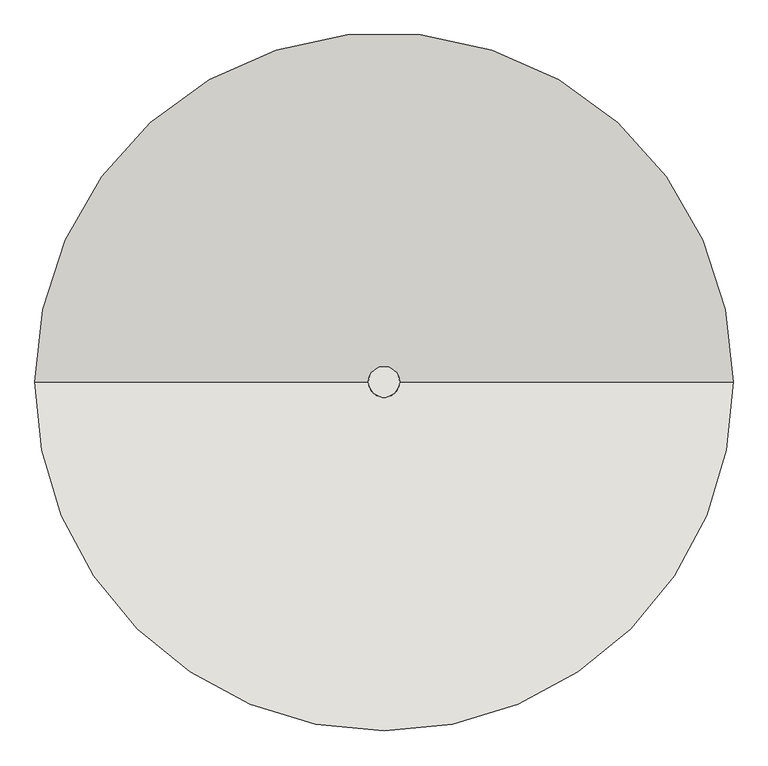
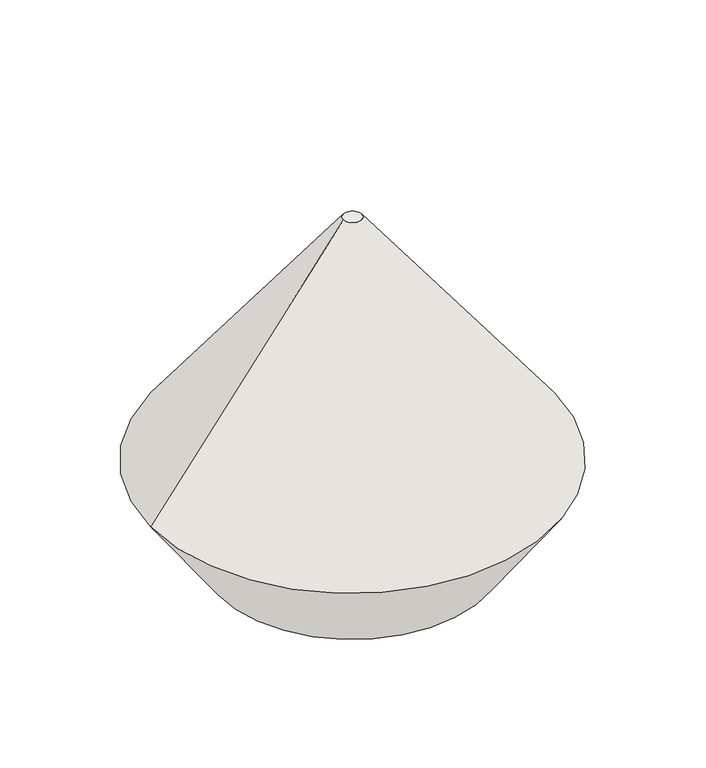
"""IFC4 building model written with IfcOpenShell, lengths in millimetres: wall geometry, Стены 1 : Стены 1."""

import ifcopenshell
import ifcopenshell.guid

model = None  # the IFC model being written
_history = None  # IfcOwnerHistory: only IFC2X3 demands one
_inside = {}  # id of a spatial element -> (the spatial element, [elements in it])
_under = {}  # id of a project, library or spatial element -> (it, [spatial elements below it])
_declared = {}  # id of a project -> (the project, [libraries it declares])
_typed = {}  # id of a type object -> (the type object, [elements of that type])
_made_of = {}  # id of a material, layer set ... -> (it, [elements and type objects made of it])


def new_model(schema):
    """Start an empty IFC model of exactly this schema.

    Asked for "IFC4X3", IfcOpenShell would pick the latest addendum, in which some entities
    have other attributes; the version numbers below select the first issue.
    IFC2X3 requires an IfcOwnerHistory on every rooted entity: one is made here for all.
    """
    global model, _history
    if schema == "IFC4X3":
        model = ifcopenshell.file(schema_version=(4, 3, 0, 0))
    else:
        model = ifcopenshell.file(schema=schema)
    _inside.clear()
    _under.clear()
    _declared.clear()
    _typed.clear()
    _made_of.clear()
    _history = None
    if model.schema == "IFC2X3":
        org = make("IfcOrganization", Name="unknown")
        user = make(
            "IfcPersonAndOrganization",
            ThePerson=make("IfcPerson", FamilyName="unknown"),
            TheOrganization=org,
        )
        app = make(
            "IfcApplication",
            ApplicationDeveloper=org,
            Version="unknown",
            ApplicationFullName="unknown",
            ApplicationIdentifier="unknown",
        )
        _history = make(
            "IfcOwnerHistory",
            OwningUser=user,
            OwningApplication=app,
            ChangeAction="ADDED",
            CreationDate=0,
        )
    return model


def make(cls, **values):
    """One entity of the class cls with the attributes given. An attribute that is None is left unset."""
    return model.create_entity(
        cls, **{name: value for name, value in values.items() if value is not None}
    )


def rooted(cls, **values):
    """An entity with a GlobalId (a new one), such as an element, a storey or a relation."""
    return make(cls, GlobalId=ifcopenshell.guid.new(), OwnerHistory=_history, **values)


def si_unit(unit_type, name, prefix=None):
    """IfcSIUnit, for example si_unit("LENGTHUNIT", "METRE", prefix="MILLI")."""
    return make("IfcSIUnit", UnitType=unit_type, Prefix=prefix, Name=name)


def assignment(units):
    """IfcUnitAssignment: the units of a project."""
    return None if units is None else make("IfcUnitAssignment", Units=units)


def point(xyz):
    """IfcCartesianPoint."""
    return None if xyz is None else make("IfcCartesianPoint", Coordinates=xyz)


def direction(xyz):
    """IfcDirection."""
    return None if xyz is None else make("IfcDirection", DirectionRatios=xyz)


def frame(location, z_axis=None, x_axis=None):
    """IfcAxis2Placement3D, a coordinate frame: its origin and axes. An axis left out is left unset."""
    return make(
        "IfcAxis2Placement3D",
        Location=point(location),
        Axis=direction(z_axis),
        RefDirection=direction(x_axis),
    )


def origin():
    """The frame at (0, 0, 0) with its axes left unset."""
    return frame((0.0, 0.0, 0.0))


def place(relative_to, where):
    """IfcLocalPlacement: puts the frame where relative to a parent placement (None: the world)."""
    return make(
        "IfcLocalPlacement", PlacementRelTo=relative_to, RelativePlacement=where
    )


def context(
    kind, dimensions, precision=None, world=None, true_north=None, identifier=None
):
    """IfcGeometricRepresentationContext, for example the 3D "Model" context."""
    return make(
        "IfcGeometricRepresentationContext",
        ContextIdentifier=identifier,
        ContextType=kind,
        CoordinateSpaceDimension=dimensions,
        Precision=precision,
        WorldCoordinateSystem=world,
        TrueNorth=true_north,
    )


def project(units=None, contexts=None):
    """IfcProject with its units and contexts."""
    return rooted(
        "IfcProject",
        Name="project",
        RepresentationContexts=contexts,
        UnitsInContext=assignment(units),
    )


def spatial(cls, under=None, at=None, **own):
    """A site, building, storey or space (cls), placed at a placement, below another one or the project."""
    s = rooted(cls, ObjectPlacement=at, **own)
    if under is not None:
        _under.setdefault(under.id(), (under, []))[1].append(s)
    return s


def polyline(points):
    """IfcPolyline through the points."""
    return make("IfcPolyline", Points=[point(p) for p in points])


def circle_curve(where, radius):
    """IfcCircle in the frame where."""
    return make("IfcCircle", Position=where, Radius=radius)


def shape(context_of_items, identifier, shape_type, items):
    """IfcShapeRepresentation: the items that make up one representation, for example the "Body"."""
    return make(
        "IfcShapeRepresentation",
        ContextOfItems=context_of_items,
        RepresentationIdentifier=identifier,
        RepresentationType=shape_type,
        Items=items,
    )


def source(mapping_origin, context_of_items, identifier, shape_type, items):
    """IfcRepresentationMap: a shape defined once, which mapped items show again and again."""
    return make(
        "IfcRepresentationMap",
        MappingOrigin=mapping_origin,
        MappedRepresentation=shape(context_of_items, identifier, shape_type, items),
    )


def transform(
    local_origin,
    x_axis=None,
    y_axis=None,
    z_axis=None,
    scale=None,
    scale2=None,
    scale3=None,
    uniform=True,
):
    """IfcCartesianTransformationOperator3D, or its non-uniform kind. x_axis, y_axis, z_axis: its Axis1, 2, 3."""
    if uniform:
        return make(
            "IfcCartesianTransformationOperator3D",
            Axis1=direction(x_axis),
            Axis2=direction(y_axis),
            LocalOrigin=point(local_origin),
            Scale=scale,
            Axis3=direction(z_axis),
        )
    return make(
        "IfcCartesianTransformationOperator3DnonUniform",
        Axis1=direction(x_axis),
        Axis2=direction(y_axis),
        LocalOrigin=point(local_origin),
        Scale=scale,
        Axis3=direction(z_axis),
        Scale2=scale2,
        Scale3=scale3,
    )


def mapped(mapping_source, mapping_target):
    """IfcMappedItem: shows the shape of a source again, moved by a transform."""
    return make(
        "IfcMappedItem", MappingSource=mapping_source, MappingTarget=mapping_target
    )


def made_of(thing, what):
    """Note that an element or type object is made of a material, layer set ...; save() writes the relation."""
    if what is not None:
        _made_of.setdefault(what.id(), (what, []))[1].append(thing)
    return thing


def element(
    cls,
    number,
    at=None,
    inside=None,
    cuts=None,
    type_object=None,
    material=None,
    context=None,
    identifier="Body",
    shape_type=None,
    held_by="IfcProductDefinitionShape",
    body=None,
    shapes=None,
    **own,
):
    """One element of the class cls, such as IfcWall. Its Tag is "e" and its number.

    at: its placement. inside: the storey or other place that contains it. cuts: it is an
    opening in that element (IfcRelVoidsElement). A single representation is given by context,
    identifier, shape_type and body (its items); several are given by shapes. held_by: the class
    of the entity that holds the representations. save() writes the other relations.
    """
    e = rooted(cls, Tag="e%d" % number, ObjectPlacement=at, **own)
    if body is not None:
        shapes = [shape(context, identifier, shape_type, body)]
    if shapes is not None:
        e.Representation = make(held_by, Representations=shapes)
    if inside is not None:
        _inside.setdefault(inside.id(), (inside, []))[1].append(e)
    if cuts is not None:
        rooted(
            "IfcRelVoidsElement", RelatingBuildingElement=cuts, RelatedOpeningElement=e
        )
    if type_object is not None:
        _typed.setdefault(type_object.id(), (type_object, []))[1].append(e)
    return made_of(e, material)


def aggregate(whole, parts):
    """IfcRelAggregates: a whole, such as a stair, and the parts it consists of."""
    return rooted("IfcRelAggregates", RelatingObject=whole, RelatedObjects=parts)


def save(model, path):
    """Write the relations noted so far, then the file.

    IfcRelAggregates (storeys below a building ...), IfcRelContainedInSpatialStructure (elements
    in a storey), IfcRelDefinesByType, IfcRelAssociatesMaterial and IfcRelDeclares: one each for
    every whole, place, type object, material and project.
    """
    for whole, parts in _under.values():
        aggregate(whole, parts)
    for where, things in _inside.values():
        rooted(
            "IfcRelContainedInSpatialStructure",
            RelatedElements=things,
            RelatingStructure=where,
        )
    for kind, things in _typed.values():
        rooted("IfcRelDefinesByType", RelatedObjects=things, RelatingType=kind)
    for what, things in _made_of.values():
        rooted("IfcRelAssociatesMaterial", RelatedObjects=things, RelatingMaterial=what)
    for by, libraries in _declared.values():
        rooted("IfcRelDeclares", RelatingContext=by, RelatedDefinitions=libraries)
    model.write(path)


def plane_surface(at):
    """IfcPlane: the flat surface through the origin of the frame at, square to its z axis."""
    return make("IfcPlane", Position=at)


def revolved_surface(curve, axis_point, axis_direction):
    """IfcSurfaceOfRevolution: the curve turned about the line through axis_point along axis_direction."""
    return make(
        "IfcSurfaceOfRevolution",
        SweptCurve=make("IfcArbitraryOpenProfileDef", ProfileType="CURVE", Curve=curve),
        AxisPosition=make("IfcAxis1Placement", Location=point(axis_point), Axis=direction(axis_direction)),
    )


def advanced_brep(points, edges, surfaces, faces):
    """IfcAdvancedBrep: a solid bounded by faces that lie on surfaces and meet in shared edges.

    An edge is (start, end): straight between two places in points (the first is 0);
    or (start, end, curve); or (start, end, curve, False) where it runs against its curve.
    A face is (place in surfaces, loops), or (place, loops, False) where it looks against
    its surface's normal. A loop lists edges by number (the first is 1), with a minus sign
    where the edge is run from its end to its start. The first loop is the outer one.
    """
    corners = [point(p) for p in points]
    vertices = [make("IfcVertexPoint", VertexGeometry=c) for c in corners]
    made = []
    for start, end, *more in edges:
        made.append(
            make(
                "IfcEdgeCurve",
                EdgeStart=vertices[start],
                EdgeEnd=vertices[end],
                EdgeGeometry=more[0] if more else make("IfcPolyline", Points=[corners[start], corners[end]]),
                SameSense=more[1] if len(more) > 1 else True,
            )
        )
    hull = []
    for where, loops, *sense in faces:
        bounds = []
        for j, loop in enumerate(loops):
            ring = [make("IfcOrientedEdge", EdgeElement=made[abs(k) - 1], Orientation=k > 0) for k in loop]
            bounds.append(
                make(
                    "IfcFaceOuterBound" if j == 0 else "IfcFaceBound",
                    Bound=make("IfcEdgeLoop", EdgeList=ring),
                    Orientation=True,
                )
            )
        hull.append(make("IfcAdvancedFace", Bounds=bounds, FaceSurface=surfaces[where], SameSense=sense[0] if sense else True))
    return make("IfcAdvancedBrep", Outer=make("IfcClosedShell", CfsFaces=hull))


def wall_f4106ca5(model_context):
    return source(origin(), model_context, "Body", "AdvancedBrep", [
        advanced_brep(
        [(69998.6564547, 8099.6432025, 15713.975669), (70798.6564547, 8099.6432025, 15713.975669), (61398.6564547, 8099.6432025, 4267.8092841), (79398.6564547, 8099.6432025, 4267.8092841), (64398.6564547, 8099.6432025, 0.0), (76398.6564547, 8099.6432025, 0.0)],
        [
            (0, 1, circle_curve(frame((70398.6564547, 8099.6432025, 15713.975669), z_axis=(0.0, 0.0, 1.0), x_axis=(-1.0, 0.0, 0.0)), 400.0)),
            (1, 0, circle_curve(frame((70398.6564547, 8099.6432025, 15713.975669), z_axis=(0.0, 0.0, 1.0), x_axis=(1.0, 0.0, 0.0)), 400.0)),
            (0, 2),
            (2, 3, circle_curve(frame((70398.6564547, 8099.6432025, 4267.8092841), z_axis=(0.0, 0.0, 1.0), x_axis=(-1.0, 0.0, 0.0)), 9000.0)),
            (3, 1),
            (3, 2, circle_curve(frame((70398.6564547, 8099.6432025, 4267.8092841), z_axis=(0.0, 0.0, 1.0), x_axis=(1.0, 0.0, 0.0)), 9000.0)),
            (4, 5, circle_curve(frame((70398.6564547, 8099.6432025, 0.0), z_axis=(0.0, 0.0, -1.0), x_axis=(1.0, 0.0, 0.0)), 6000.0)),
            (5, 4, circle_curve(frame((70398.6564547, 8099.6432025, 0.0), z_axis=(0.0, 0.0, -1.0), x_axis=(-1.0, 0.0, 0.0)), 6000.0)),
            (5, 3),
            (2, 4),
        ],
        [
            plane_surface(frame((70398.6564547, 8099.6432025, 15713.975669), z_axis=(0.0, 0.0, 1.0), x_axis=(0.0, -1.0, 0.0))),
            revolved_surface(polyline([(69998.65645466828, 8099.6432025, 15713.975669), (61398.6564547, 8099.6432025, 4267.8092841)]), (70398.6564547, 8099.6432025, 16246.3555009), (0.0, 0.0, -1.0)),
            revolved_surface(polyline([(70798.65645473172, 8099.6432025, 15713.975669), (79398.6564547, 8099.6432025, 4267.8092841)]), (70398.6564547, 8099.6432025, 16246.3555009), (0.0, 0.0, -1.0)),
            plane_surface(frame((70398.6564547, 8099.6432025, 0.0), z_axis=(0.0, 0.0, -1.0), x_axis=(0.0, -1.0, 0.0))),
            revolved_surface(polyline([(76398.6564547, 8099.6432025, 0.0), (79398.6564547, 8099.6432025, 4267.8092841)]), (70398.6564547, 8099.6432025, -8535.6185682), (0.0, 0.0, 1.0)),
            revolved_surface(polyline([(64398.6564547, 8099.6432025, 0.0), (61398.6564547, 8099.6432025, 4267.8092841)]), (70398.6564547, 8099.6432025, -8535.6185682), (0.0, 0.0, 1.0)),
        ],
        [
            (0, [[1, 2]]),
            (1, [[-1, 3, 4, 5]]),
            (2, [[-2, -5, 6, -3]]),
            (3, [[7, 8]]),
            (4, [[-8, 9, -4, 10]]),
            (5, [[-7, -10, -6, -9]]),
        ],
    ),
    ])


if __name__ == "__main__":
    model = new_model("IFC4")
    model_context = context("Model", 3, world=origin())
    ifc_project = project(units=[si_unit("LENGTHUNIT", "METRE", prefix="MILLI")], contexts=[model_context])
    site = spatial("IfcSite", under=ifc_project)
    building = spatial("IfcBuilding", under=site)
    placement = place(None, origin())
    wall_shape = wall_f4106ca5(model_context)
    element("IfcWall", 1, ObjectType="Стены 1 : Стены 1", at=placement, inside=building, context=model_context, shape_type="MappedRepresentation", body=[
        mapped(wall_shape, transform((0.0, 0.0, 0.0), x_axis=(1.0, 0.0, 0.0), y_axis=(0.0, 1.0, 0.0), z_axis=(0.0, 0.0, 1.0))),
    ])
    save(model, "model.ifc")
